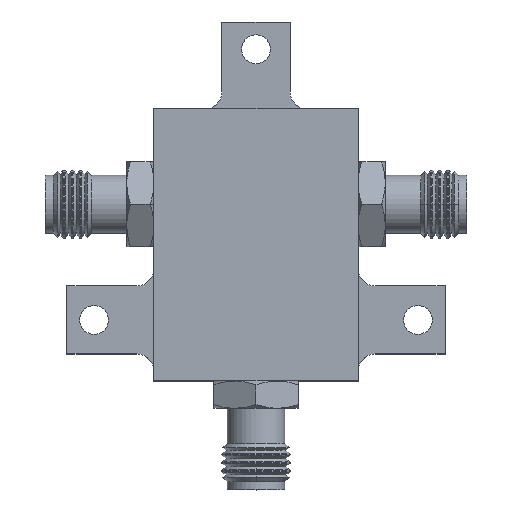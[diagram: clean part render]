
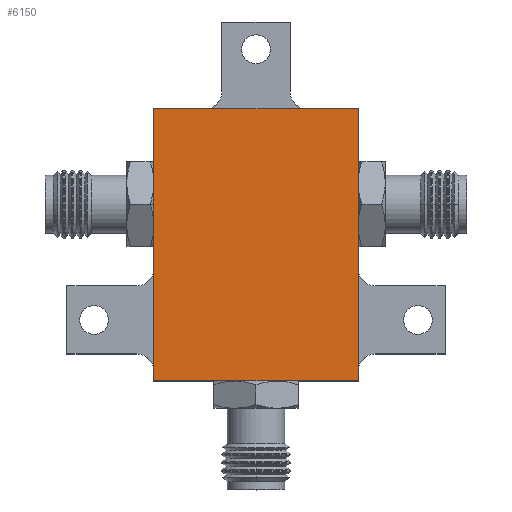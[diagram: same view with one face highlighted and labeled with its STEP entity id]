
A CAD part, top view. The second image highlights one B-rep face of the part: STEP entity #6150.
In plain terms, the highlighted planar face has unit normal (0, 0, 1).
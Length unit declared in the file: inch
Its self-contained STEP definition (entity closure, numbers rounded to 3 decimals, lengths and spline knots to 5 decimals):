
#93 = VERTEX_POINT ( 'NONE', #4315 ) ;
#115 = DIRECTION ( 'NONE',  ( 0., 1., 0. ) ) ;
#293 = CARTESIAN_POINT ( 'NONE',  ( 6.41625, 4.04544, 0.58 ) ) ;
#305 = EDGE_CURVE ( 'NONE', #93, #7546, #1681, .T. ) ;
#351 = LINE ( 'NONE', #6701, #6161 ) ;
#545 = CARTESIAN_POINT ( 'NONE',  ( 5.66625, 4.04544, 0.58 ) ) ;
#1148 = DIRECTION ( 'NONE',  ( 0., 0., -1. ) ) ;
#1340 = ORIENTED_EDGE ( 'NONE', *, *, #1762, .F. ) ;
#1638 = DIRECTION ( 'NONE',  ( 0., -1., 0. ) ) ;
#1681 = LINE ( 'NONE', #6886, #6142 ) ;
#1754 = VERTEX_POINT ( 'NONE', #4650 ) ;
#1762 = EDGE_CURVE ( 'NONE', #1754, #5701, #7295, .T. ) ;
#2274 = PLANE ( 'NONE',  #4474 ) ;
#2840 = CARTESIAN_POINT ( 'NONE',  ( 6.41625, 4.04544, 0.58 ) ) ;
#3547 = CARTESIAN_POINT ( 'NONE',  ( 5.66625, 5.04544, 0.58 ) ) ;
#3677 = EDGE_CURVE ( 'NONE', #5701, #93, #351, .T. ) ;
#4102 = EDGE_CURVE ( 'NONE', #7546, #1754, #5345, .T. ) ;
#4315 = CARTESIAN_POINT ( 'NONE',  ( 6.41625, 5.04544, 0.58 ) ) ;
#4474 = AXIS2_PLACEMENT_3D ( 'NONE', #545, #1148, #5197 ) ;
#4650 = CARTESIAN_POINT ( 'NONE',  ( 5.66625, 4.04544, 0.58 ) ) ;
#5085 = FACE_OUTER_BOUND ( 'NONE', #7322, .T. ) ;
#5197 = DIRECTION ( 'NONE',  ( -1., 0., 0. ) ) ;
#5345 = LINE ( 'NONE', #2840, #5522 ) ;
#5522 = VECTOR ( 'NONE', #6312, 39.37008 ) ;
#5567 = DIRECTION ( 'NONE',  ( 1., 0., 0. ) ) ;
#5701 = VERTEX_POINT ( 'NONE', #3547 ) ;
#5729 = ORIENTED_EDGE ( 'NONE', *, *, #3677, .F. ) ;
#6142 = VECTOR ( 'NONE', #1638, 39.37008 ) ;
#6150 = ADVANCED_FACE ( 'NONE', ( #5085 ), #2274, .F. ) ;
#6161 = VECTOR ( 'NONE', #5567, 39.37008 ) ;
#6286 = ORIENTED_EDGE ( 'NONE', *, *, #4102, .F. ) ;
#6312 = DIRECTION ( 'NONE',  ( -1., 0., 0. ) ) ;
#6701 = CARTESIAN_POINT ( 'NONE',  ( 6.22925, 5.04544, 0.58 ) ) ;
#6886 = CARTESIAN_POINT ( 'NONE',  ( 6.41625, 5.04544, 0.58 ) ) ;
#7087 = ORIENTED_EDGE ( 'NONE', *, *, #305, .F. ) ;
#7097 = CARTESIAN_POINT ( 'NONE',  ( 5.66625, 4.45844, 0.58 ) ) ;
#7295 = LINE ( 'NONE', #7097, #7470 ) ;
#7322 = EDGE_LOOP ( 'NONE', ( #6286, #7087, #5729, #1340 ) ) ;
#7470 = VECTOR ( 'NONE', #115, 39.37008 ) ;
#7546 = VERTEX_POINT ( 'NONE', #293 ) ;
